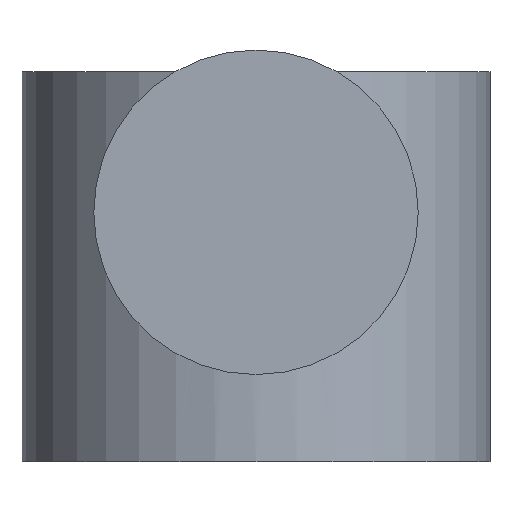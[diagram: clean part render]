
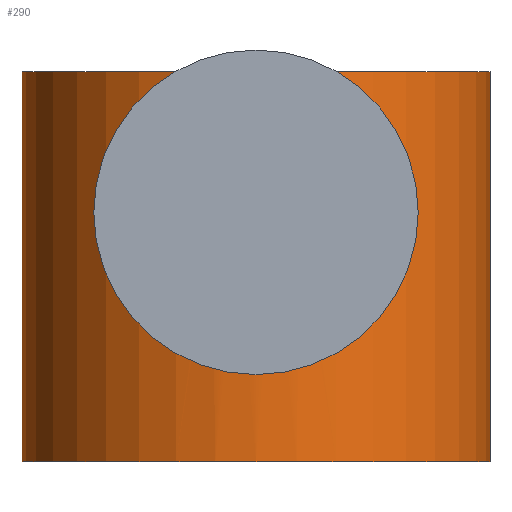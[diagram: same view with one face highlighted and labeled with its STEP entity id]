
A CAD part, front view. The second image highlights one B-rep face of the part: STEP entity #290.
In plain terms, the highlighted cylindrical face has radius 7.5 mm (diameter 15 mm), a partial arc.
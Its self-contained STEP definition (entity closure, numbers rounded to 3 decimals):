
#8 = DIRECTION ( 'NONE',  ( 1., 0., 0. ) ) ;
#9 = DIRECTION ( 'NONE',  ( 0., 0., 1. ) ) ;
#10 = CARTESIAN_POINT ( 'NONE',  ( 0., 21., 4.5 ) ) ;
#11 = DIRECTION ( 'NONE',  ( 1., 0., 0. ) ) ;
#12 = DIRECTION ( 'NONE',  ( 0., 0., 1. ) ) ;
#13 = CARTESIAN_POINT ( 'NONE',  ( 0., 21., -8. ) ) ;
#14 = DIRECTION ( 'NONE',  ( 0., 0., 1. ) ) ;
#16 = CARTESIAN_POINT ( 'NONE',  ( 7.5, 21., -8. ) ) ;
#20 = DIRECTION ( 'NONE',  ( 0., 0., 1. ) ) ;
#21 = CARTESIAN_POINT ( 'NONE',  ( -7.5, 21., -8. ) ) ;
#27 = CARTESIAN_POINT ( 'NONE',  ( -7.5, 21., -8. ) ) ;
#28 = CARTESIAN_POINT ( 'NONE',  ( 7.5, 21., -8. ) ) ;
#29 = CARTESIAN_POINT ( 'NONE',  ( 7.5, 21., 4.5 ) ) ;
#30 = CARTESIAN_POINT ( 'NONE',  ( -7.5, 21., 4.5 ) ) ;
#31 = CARTESIAN_POINT ( 'NONE',  ( 0., 13.5, -1.5 ) ) ;
#32 = CARTESIAN_POINT ( 'NONE',  ( 0., 13.5, 1.5 ) ) ;
#33 = VERTEX_POINT ( 'NONE', #32 ) ;
#35 = VERTEX_POINT ( 'NONE', #31 ) ;
#36 = VERTEX_POINT ( 'NONE', #30 ) ;
#37 = VERTEX_POINT ( 'NONE', #29 ) ;
#38 = VERTEX_POINT ( 'NONE', #28 ) ;
#43 = VERTEX_POINT ( 'NONE', #27 ) ;
#60 = AXIS2_PLACEMENT_3D ( 'NONE', #185, #183, #181 ) ;
#68 = AXIS2_PLACEMENT_3D ( 'NONE', #10, #9, #8 ) ;
#69 = AXIS2_PLACEMENT_3D ( 'NONE', #13, #12, #11 ) ;
#73 = EDGE_CURVE ( 'NONE', #43, #36, #113, .T. ) ;
#75 = EDGE_CURVE ( 'NONE', #38, #37, #111, .T. ) ;
#76 = EDGE_CURVE ( 'NONE', #43, #38, #108, .T. ) ;
#77 = EDGE_CURVE ( 'NONE', #36, #37, #107, .T. ) ;
#78 = EDGE_CURVE ( 'NONE', #35, #33, #341, .T. ) ;
#83 = EDGE_CURVE ( 'NONE', #33, #35, #340, .T. ) ;
#104 = EDGE_LOOP ( 'NONE', ( #129, #131 ) ) ;
#107 = CIRCLE ( 'NONE', #68, 7.5 ) ;
#108 = CIRCLE ( 'NONE', #69, 7.5 ) ;
#109 = VECTOR ( 'NONE', #14, 1000. ) ;
#111 = LINE ( 'NONE', #16, #109 ) ;
#112 = VECTOR ( 'NONE', #20, 1000. ) ;
#113 = LINE ( 'NONE', #21, #112 ) ;
#125 = ORIENTED_EDGE ( 'NONE', *, *, #73, .F. ) ;
#126 = ORIENTED_EDGE ( 'NONE', *, *, #76, .T. ) ;
#127 = ORIENTED_EDGE ( 'NONE', *, *, #75, .T. ) ;
#128 = ORIENTED_EDGE ( 'NONE', *, *, #77, .F. ) ;
#129 = ORIENTED_EDGE ( 'NONE', *, *, #83, .F. ) ;
#131 = ORIENTED_EDGE ( 'NONE', *, *, #78, .F. ) ;
#134 = EDGE_LOOP ( 'NONE', ( #125, #126, #127, #128 ) ) ;
#164 = CARTESIAN_POINT ( 'NONE',  ( 0., 13.5, 1.5 ) ) ;
#166 = CARTESIAN_POINT ( 'NONE',  ( 0.199, 13.5, 1.5 ) ) ;
#169 = CARTESIAN_POINT ( 'NONE',  ( 0.396, 13.508, 1.46 ) ) ;
#172 = CARTESIAN_POINT ( 'NONE',  ( 0., 13.5, -1.5 ) ) ;
#174 = CARTESIAN_POINT ( 'NONE',  ( 0.757, 13.536, 1.31 ) ) ;
#178 = CARTESIAN_POINT ( 'NONE',  ( 0.924, 13.556, 1.198 ) ) ;
#180 = CARTESIAN_POINT ( 'NONE',  ( 1.199, 13.595, 0.922 ) ) ;
#181 = DIRECTION ( 'NONE',  ( 1., 0., 0. ) ) ;
#182 = CARTESIAN_POINT ( 'NONE',  ( 1.311, 13.615, 0.755 ) ) ;
#183 = DIRECTION ( 'NONE',  ( 0., 0., 1. ) ) ;
#184 = CARTESIAN_POINT ( 'NONE',  ( 1.423, 13.636, 0.484 ) ) ;
#185 = CARTESIAN_POINT ( 'NONE',  ( 0., 21., -8. ) ) ;
#187 = CARTESIAN_POINT ( 'NONE',  ( 1.452, 13.642, 0.388 ) ) ;
#189 = CARTESIAN_POINT ( 'NONE',  ( 1.49, 13.65, 0.196 ) ) ;
#193 = CARTESIAN_POINT ( 'NONE',  ( 1.5, 13.652, 0.098 ) ) ;
#196 = CARTESIAN_POINT ( 'NONE',  ( 1.5, 13.652, -0.199 ) ) ;
#198 = CARTESIAN_POINT ( 'NONE',  ( 1.461, 13.643, -0.394 ) ) ;
#201 = CARTESIAN_POINT ( 'NONE',  ( 1.347, 13.622, -0.667 ) ) ;
#204 = CARTESIAN_POINT ( 'NONE',  ( 1.301, 13.614, -0.753 ) ) ;
#207 = CARTESIAN_POINT ( 'NONE',  ( 1.192, 13.595, -0.915 ) ) ;
#209 = CARTESIAN_POINT ( 'NONE',  ( 1.129, 13.585, -0.992 ) ) ;
#212 = CARTESIAN_POINT ( 'NONE',  ( 0.922, 13.556, -1.199 ) ) ;
#213 = CARTESIAN_POINT ( 'NONE',  ( 0., 13.5, -1.5 ) ) ;
#214 = CARTESIAN_POINT ( 'NONE',  ( -0.098, 13.5, -1.5 ) ) ;
#215 = CARTESIAN_POINT ( 'NONE',  ( -0.198, 13.502, -1.49 ) ) ;
#216 = CARTESIAN_POINT ( 'NONE',  ( 0.755, 13.536, -1.311 ) ) ;
#217 = CARTESIAN_POINT ( 'NONE',  ( -0.39, 13.51, -1.452 ) ) ;
#218 = CARTESIAN_POINT ( 'NONE',  ( -0.484, 13.515, -1.423 ) ) ;
#219 = CARTESIAN_POINT ( 'NONE',  ( -0.665, 13.529, -1.348 ) ) ;
#220 = CARTESIAN_POINT ( 'NONE',  ( 0.394, 13.508, -1.461 ) ) ;
#221 = CARTESIAN_POINT ( 'NONE',  ( -0.753, 13.537, -1.301 ) ) ;
#222 = CARTESIAN_POINT ( 'NONE',  ( -0.915, 13.556, -1.192 ) ) ;
#223 = CARTESIAN_POINT ( 'NONE',  ( -0.991, 13.565, -1.13 ) ) ;
#224 = CARTESIAN_POINT ( 'NONE',  ( 0.196, 13.5, -1.5 ) ) ;
#225 = CARTESIAN_POINT ( 'NONE',  ( -1.2, 13.595, -0.921 ) ) ;
#226 = CARTESIAN_POINT ( 'NONE',  ( -1.31, 13.615, -0.756 ) ) ;
#227 = CARTESIAN_POINT ( 'NONE',  ( -1.423, 13.636, -0.483 ) ) ;
#228 = CARTESIAN_POINT ( 'NONE',  ( -1.452, 13.642, -0.39 ) ) ;
#229 = CARTESIAN_POINT ( 'NONE',  ( -1.49, 13.65, -0.197 ) ) ;
#230 = CARTESIAN_POINT ( 'NONE',  ( -1.5, 13.652, -0.098 ) ) ;
#231 = CARTESIAN_POINT ( 'NONE',  ( -1.5, 13.652, 0.197 ) ) ;
#232 = CARTESIAN_POINT ( 'NONE',  ( -1.46, 13.643, 0.395 ) ) ;
#233 = CARTESIAN_POINT ( 'NONE',  ( -1.311, 13.615, 0.755 ) ) ;
#234 = CARTESIAN_POINT ( 'NONE',  ( -1.199, 13.595, 0.922 ) ) ;
#235 = CARTESIAN_POINT ( 'NONE',  ( -0.992, 13.566, 1.129 ) ) ;
#236 = CARTESIAN_POINT ( 'NONE',  ( -0.915, 13.556, 1.193 ) ) ;
#237 = CARTESIAN_POINT ( 'NONE',  ( -0.752, 13.537, 1.301 ) ) ;
#238 = CARTESIAN_POINT ( 'NONE',  ( -0.666, 13.529, 1.348 ) ) ;
#240 = CARTESIAN_POINT ( 'NONE',  ( -0.485, 13.515, 1.423 ) ) ;
#241 = CARTESIAN_POINT ( 'NONE',  ( -0.389, 13.509, 1.452 ) ) ;
#242 = CARTESIAN_POINT ( 'NONE',  ( -0.197, 13.502, 1.49 ) ) ;
#246 = CARTESIAN_POINT ( 'NONE',  ( -0.099, 13.5, 1.5 ) ) ;
#247 = CARTESIAN_POINT ( 'NONE',  ( 0., 13.5, 1.5 ) ) ;
#290 = ADVANCED_FACE ( 'NONE', ( #329, #328 ), #327, .T. ) ;
#327 = CYLINDRICAL_SURFACE ( 'NONE', #60, 7.5 ) ;
#328 = FACE_BOUND ( 'NONE', #104, .T. ) ;
#329 = FACE_OUTER_BOUND ( 'NONE', #134, .T. ) ;
#340 = B_SPLINE_CURVE_WITH_KNOTS ( 'NONE', 3,
 ( #247, #246, #242, #241, #240, #238, #237, #236, #235, #234, #233, #232, #231, #230, #229, #228, #227, #226, #225, #223, #222, #221, #219, #218, #217, #215, #214, #213 ),
 .UNSPECIFIED., .F., .F.,
 ( 4, 2, 2, 2, 2, 2, 2, 2, 2, 2, 2, 2, 2, 4 ),
 ( 0., 0., 0.001, 0.001, 0.001, 0.002, 0.002, 0.003, 0.003, 0.004, 0.004, 0.004, 0.004, 0.005 ),
 .UNSPECIFIED. ) ;
#341 = B_SPLINE_CURVE_WITH_KNOTS ( 'NONE', 3,
 ( #172, #224, #220, #216, #212, #209, #207, #204, #201, #198, #196, #193, #189, #187, #184, #182, #180, #178, #174, #169, #166, #164 ),
 .UNSPECIFIED., .F., .F.,
 ( 4, 2, 2, 2, 2, 2, 2, 2, 2, 2, 4 ),
 ( 0.005, 0.005, 0.006, 0.006, 0.006, 0.007, 0.007, 0.008, 0.008, 0.009, 0.009 ),
 .UNSPECIFIED. ) ;
